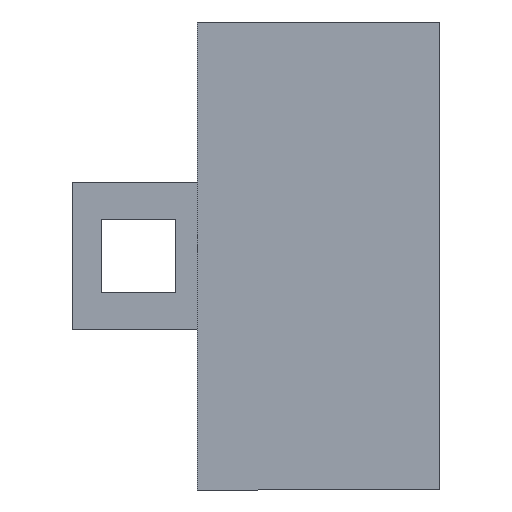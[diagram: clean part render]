
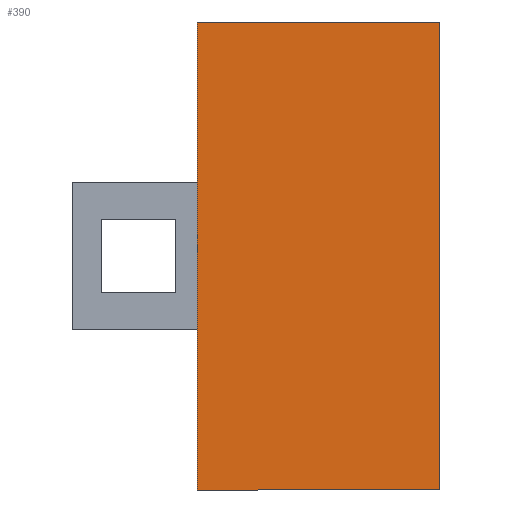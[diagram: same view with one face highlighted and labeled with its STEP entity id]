
A CAD part, front view. The second image highlights one B-rep face of the part: STEP entity #390.
In plain terms, the highlighted planar face has unit normal (0, -1, 0).
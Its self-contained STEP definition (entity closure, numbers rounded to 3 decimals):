
#72 = CARTESIAN_POINT ( 'NONE',  ( 12.5, -2.25, 15.9 ) ) ;
#115 = VECTOR ( 'NONE', #1056, 1000. ) ;
#116 = DIRECTION ( 'NONE',  ( 1., 0., 0. ) ) ;
#142 = ORIENTED_EDGE ( 'NONE', *, *, #621, .T. ) ;
#153 = DIRECTION ( 'NONE',  ( -1., 0., 0. ) ) ;
#175 = CARTESIAN_POINT ( 'NONE',  ( 12.5, -2.25, -15.9 ) ) ;
#176 = CARTESIAN_POINT ( 'NONE',  ( 12.5, -2.25, 12.353 ) ) ;
#208 = ORIENTED_EDGE ( 'NONE', *, *, #799, .T. ) ;
#221 = LINE ( 'NONE', #719, #115 ) ;
#228 = EDGE_LOOP ( 'NONE', ( #884, #925, #208, #142 ) ) ;
#267 = LINE ( 'NONE', #176, #676 ) ;
#273 = EDGE_CURVE ( 'NONE', #833, #735, #413, .T. ) ;
#314 = DIRECTION ( 'NONE',  ( 0., 1., 0. ) ) ;
#352 = CARTESIAN_POINT ( 'NONE',  ( -4., -2.25, 12.5 ) ) ;
#390 = ADVANCED_FACE ( 'NONE', ( #394 ), #821, .F. ) ;
#394 = FACE_OUTER_BOUND ( 'NONE', #228, .T. ) ;
#413 = LINE ( 'NONE', #72, #605 ) ;
#496 = CARTESIAN_POINT ( 'NONE',  ( -4., -2.25, 15.9 ) ) ;
#515 = DIRECTION ( 'NONE',  ( 0., 0., -1. ) ) ;
#600 = CARTESIAN_POINT ( 'NONE',  ( 12.5, -2.25, 15.9 ) ) ;
#605 = VECTOR ( 'NONE', #153, 1000. ) ;
#621 = EDGE_CURVE ( 'NONE', #764, #724, #221, .T. ) ;
#676 = VECTOR ( 'NONE', #515, 1000. ) ;
#719 = CARTESIAN_POINT ( 'NONE',  ( 12.5, -2.25, -15.9 ) ) ;
#724 = VERTEX_POINT ( 'NONE', #175 ) ;
#735 = VERTEX_POINT ( 'NONE', #496 ) ;
#764 = VERTEX_POINT ( 'NONE', #905 ) ;
#799 = EDGE_CURVE ( 'NONE', #735, #764, #942, .T. ) ;
#821 = PLANE ( 'NONE',  #826 ) ;
#826 = AXIS2_PLACEMENT_3D ( 'NONE', #1060, #314, #116 ) ;
#833 = VERTEX_POINT ( 'NONE', #600 ) ;
#835 = DIRECTION ( 'NONE',  ( 0., 0., -1. ) ) ;
#884 = ORIENTED_EDGE ( 'NONE', *, *, #977, .F. ) ;
#905 = CARTESIAN_POINT ( 'NONE',  ( -4., -2.25, -15.9 ) ) ;
#916 = VECTOR ( 'NONE', #835, 1000. ) ;
#925 = ORIENTED_EDGE ( 'NONE', *, *, #273, .T. ) ;
#942 = LINE ( 'NONE', #352, #916 ) ;
#977 = EDGE_CURVE ( 'NONE', #833, #724, #267, .T. ) ;
#1056 = DIRECTION ( 'NONE',  ( 1., 0., 0. ) ) ;
#1060 = CARTESIAN_POINT ( 'NONE',  ( 0., -2.25, 0. ) ) ;
